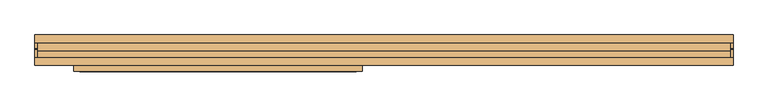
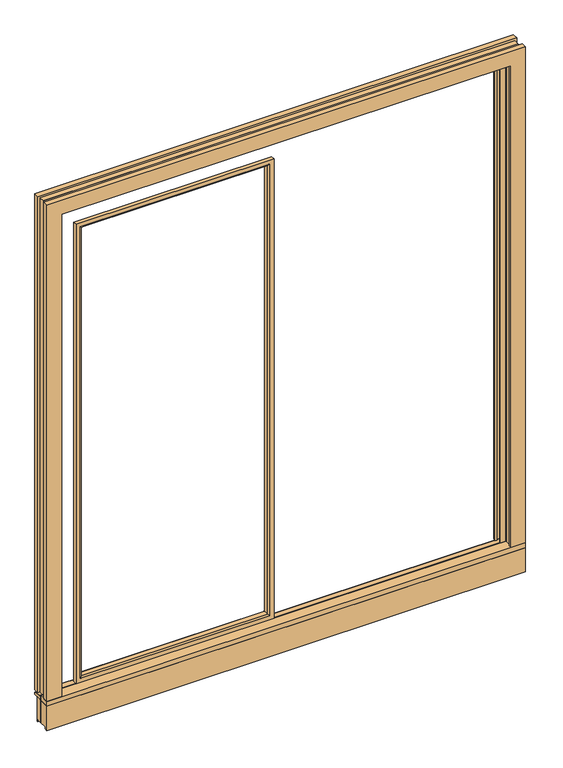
"""IFC4 building model written with IfcOpenShell, lengths in millimetres: door geometry, Doors_GEALAN_S9000_Double-Vent-Door : Doors_GEALAN_S9000_Double-Vent-Door."""

from ifc_helpers import new_model, si_unit, point, frame, frame_2d, origin, origin_with_axes, place, context, project, spatial, polyline, circle_curve, ellipse_curve, trimmed, segment, composite_curve, outline, extrude, faceted_brep, source, transform, mapped, element, save
from ifc_brep_helpers import plane_surface, cylinder_surface, advanced_brep


def door_fb300161(model_context):
    return source(origin(), model_context, "Body", "SolidModel", [
        advanced_brep(
        [(-821.8959832, -45.0529143, 1971.8959829), (-827.6915381, -49.5, 1977.6915379), (-827.6915381, -49.5, 84.3084616), (-821.8959832, -45.0529143, 90.1040166), (-818.0012172, -30.5174497, 1968.0012169), (-818.0012172, -30.5174497, 93.9987826), (-818.0012172, -29.0, 1968.0012169), (-818.0012172, -29.0, 93.9987826), (-831.1432253, -34.0, 1981.143225), (-829.8034793, -29.0, 1979.803479), (-829.8034793, -29.0, 82.1965205), (-831.1432253, -34.0, 80.8567745), (-844.0, -34.0, 1993.9999998), (-844.0, -34.0, 67.9999998), (-844.0, -49.5, 67.9999998), (-844.0, -49.5, 1993.9999998), (-75.3084619, -49.5, 84.3084616), (-81.1040168, -45.0529143, 90.1040166), (-84.9987828, -30.5174497, 93.9987826), (-84.9987828, -29.0, 93.9987826), (-73.1965207, -29.0, 82.1965205), (-71.8567747, -34.0, 80.8567745), (-59.0, -34.0, 67.9999998), (-59.0, -49.5, 67.9999998), (-75.3084619, -49.5, 1977.6915379), (-81.1040168, -45.0529143, 1971.8959829), (-84.9987828, -30.5174497, 1968.0012169), (-84.9987828, -29.0, 1968.0012169), (-73.1965207, -29.0, 1979.803479), (-71.8567747, -34.0, 1981.143225), (-59.0, -34.0, 1993.9999998), (-59.0, -49.5, 1993.9999998)],
        [
            (0, 1, ellipse_curve(frame((-827.6915381, -43.5, 1977.6915379), z_axis=(-0.707106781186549, 0.0, -0.7071067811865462), x_axis=(-0.7071067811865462, 0.0, 0.7071067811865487)), 8.4852814, 6.0)),
            (1, 2),
            (2, 3, ellipse_curve(frame((-827.6915381, -43.5, 84.3084616), z_axis=(-0.7071067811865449, 0.0, 0.70710678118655), x_axis=(0.7071067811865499, 0.0, 0.707106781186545)), 8.4852814, 6.0)),
            (3, 0),
            (4, 0),
            (3, 5),
            (5, 4),
            (6, 4),
            (5, 7),
            (7, 6),
            (8, 9),
            (9, 10),
            (10, 11),
            (11, 8),
            (12, 13),
            (13, 14),
            (14, 15),
            (15, 12),
            (2, 16),
            (16, 17, ellipse_curve(frame((-75.3084619, -43.5, 84.3084616), z_axis=(-0.7071067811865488, 0.0, -0.7071067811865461), x_axis=(-0.7071067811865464, 0.0, 0.7071067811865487)), 8.4852814, 6.0)),
            (17, 3),
            (17, 18),
            (18, 5),
            (18, 19),
            (19, 7),
            (10, 20),
            (20, 21),
            (21, 11),
            (13, 22),
            (22, 23),
            (23, 14),
            (16, 24),
            (24, 25, ellipse_curve(frame((-75.3084619, -43.5, 1977.6915379), z_axis=(0.7071067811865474, 0.0, -0.7071067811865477), x_axis=(-0.7071067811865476, 0.0, -0.7071067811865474)), 8.4852814, 6.0)),
            (25, 17),
            (25, 26),
            (26, 18),
            (26, 27),
            (27, 19),
            (20, 28),
            (28, 29),
            (29, 21),
            (22, 30),
            (30, 31),
            (31, 23),
            (24, 1),
            (0, 25),
            (4, 26),
            (6, 27),
            (9, 28),
            (8, 29),
            (12, 30),
            (15, 31),
        ],
        [
            cylinder_surface(frame((-827.6915381, -43.5, 2049.9999998), z_axis=(0.0, 0.0, 1.0), x_axis=(0.9659258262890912, -0.2588190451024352, 0.0)), 6.0),
            plane_surface(frame((-821.8959832, -45.0529143, 1971.8959829), z_axis=(0.9659258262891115, -0.25881904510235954, 0.0), x_axis=(0.0, 0.0, -1.0))),
            plane_surface(frame((-818.0012172, -30.5174497, 1968.0012169), z_axis=(1.0, 0.0, 0.0), x_axis=(0.0, 0.0, -1.0))),
            plane_surface(frame((-829.8034793, -29.0, 1979.803479), z_axis=(-0.9659258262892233, 0.2588190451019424, 0.0), x_axis=(0.0, 0.0, -1.0))),
            plane_surface(frame((-844.0, -48.5, 1993.9999998), z_axis=(-1.0, 0.0, 0.0), x_axis=(0.0, 0.0, -1.0))),
            cylinder_surface(frame((-900.0, -43.5, 84.3084616), z_axis=(-1.0, 0.0, 0.0), x_axis=(0.0, -0.2588190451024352, 0.9659258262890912)), 6.0),
            plane_surface(frame((-821.8959832, -45.0529143, 90.1040166), z_axis=(0.0, -0.25881904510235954, 0.9659258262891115), x_axis=(1.0, 0.0, 0.0))),
            plane_surface(frame((-818.0012172, -30.5174497, 93.9987826), z_axis=(0.0, 0.0, 1.0), x_axis=(1.0, 0.0, 0.0))),
            plane_surface(frame((-829.8034793, -29.0, 82.1965205), z_axis=(0.0, 0.2588190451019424, -0.9659258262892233), x_axis=(1.0, 0.0, 0.0))),
            plane_surface(frame((-844.0, -48.5, 67.9999998), z_axis=(0.0, 0.0, -1.0), x_axis=(1.0, 0.0, 0.0))),
            cylinder_surface(frame((-75.3084619, -43.5, 11.9999998), z_axis=(0.0, 0.0, -1.0), x_axis=(-0.9659258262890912, -0.2588190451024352, 0.0)), 6.0),
            plane_surface(frame((-81.1040168, -45.0529143, 90.1040166), z_axis=(-0.9659258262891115, -0.25881904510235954, 0.0), x_axis=(0.0, 0.0, 1.0))),
            plane_surface(frame((-84.9987828, -30.5174497, 93.9987826), z_axis=(-1.0, 0.0, 0.0), x_axis=(0.0, 0.0, 1.0))),
            plane_surface(frame((-73.1965207, -29.0, 82.1965205), z_axis=(0.9659258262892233, 0.2588190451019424, 0.0), x_axis=(0.0, 0.0, 1.0))),
            plane_surface(frame((-59.0, -48.5, 67.9999998), z_axis=(1.0, 0.0, 0.0), x_axis=(0.0, 0.0, 1.0))),
            cylinder_surface(frame((-3.0, -43.5, 1977.6915379), z_axis=(1.0, 0.0, 0.0), x_axis=(0.0, -0.2588190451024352, -0.9659258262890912)), 6.0),
            plane_surface(frame((-81.1040168, -45.0529143, 1971.8959829), z_axis=(0.0, -0.25881904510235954, -0.9659258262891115), x_axis=(-1.0, 0.0, 0.0))),
            plane_surface(frame((-84.9987828, -30.5174497, 1968.0012169), z_axis=(0.0, 0.0, -1.0), x_axis=(-1.0, 0.0, 0.0))),
            plane_surface(frame((-84.9987828, -29.0, 1968.0012169), z_axis=(0.0, 1.0, 0.0), x_axis=(-1.0, 0.0, 0.0))),
            plane_surface(frame((-73.1965207, -29.0, 1979.803479), z_axis=(0.0, 0.2588190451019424, 0.9659258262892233), x_axis=(-1.0, 0.0, 0.0))),
            plane_surface(frame((-71.8567747, -34.0, 1981.143225), z_axis=(0.0, 1.0, 0.0), x_axis=(-1.0, 0.0, 0.0))),
            plane_surface(frame((-59.0, -48.5, 1993.9999998), z_axis=(0.0, 0.0, 1.0), x_axis=(-1.0, 0.0, 0.0))),
            plane_surface(frame((-59.0, -49.5, 1993.9999998), z_axis=(0.0, -1.0, 0.0), x_axis=(-1.0, 0.0, 0.0))),
        ],
        [
            (0, [[1, 2, 3, 4]]),
            (1, [[5, -4, 6, 7]]),
            (2, [[8, -7, 9, 10]]),
            (3, [[11, 12, 13, 14]]),
            (4, [[15, 16, 17, 18]]),
            (5, [[-3, 19, 20, 21]]),
            (6, [[-6, -21, 22, 23]]),
            (7, [[-9, -23, 24, 25]]),
            (8, [[-13, 26, 27, 28]]),
            (9, [[-16, 29, 30, 31]]),
            (10, [[-20, 32, 33, 34]]),
            (11, [[-22, -34, 35, 36]]),
            (12, [[-24, -36, 37, 38]]),
            (13, [[-27, 39, 40, 41]]),
            (14, [[-30, 42, 43, 44]]),
            (15, [[-33, 45, -1, 46]]),
            (16, [[-35, -46, -5, 47]]),
            (17, [[-37, -47, -8, 48]]),
            (18, [[49, -39, -26, -12], [-25, -38, -48, -10]]),
            (19, [[-40, -49, -11, 50]]),
            (20, [[51, -42, -29, -15], [-28, -41, -50, -14]]),
            (21, [[-43, -51, -18, 52]]),
            (22, [[-31, -44, -52, -17], [-45, -32, -19, -2]]),
        ],
    ),
        extrude(outline(polyline([(9.5, 0.0), (9.5, -94.0), (-20.0, -94.0), (-20.0, -102.0), (-32.5, -102.0), (-32.5, 0.0), (9.5, 0.0)])), frame((-950.0, 0.0, 0.0), z_axis=(1.0, 0.0, 0.0), x_axis=(0.0, 1.0, 0.0)), (0.0, 0.0, 1.0), 1900.0),
        extrude(outline(polyline([(33.5, 0.0), (33.5, -102.0), (29.0, -102.0), (29.0, -94.0), (9.5, -94.0), (9.5, 0.0), (33.5, 0.0)])), frame((-950.0, 0.0, 0.0), z_axis=(1.0, 0.0, 0.0), x_axis=(0.0, 1.0, 0.0)), (0.0, 0.0, 1.0), 1900.0),
        extrude(outline(polyline([(950.0, 9.5), (950.0, -32.5), (-950.0, -32.5), (-950.0, 9.5), (950.0, 9.5)])), origin_with_axes(), (0.0, 0.0, 1.0), 20.0),
        extrude(outline(composite_curve([segment(trimmed(circle_curve(frame_2d((44.0, 5.9)), 6.0), [point((44.7312161, 11.8552769))], [point((50.0, 5.9))], False, "CARTESIAN"), True, "CONTINUOUS"), segment(polyline([(50.0, 5.9), (50.0, 0.0), (9.5, 0.0), (9.5, 20.0), (12.2, 20.0), (12.2, 15.849608), (44.7312161, 11.8552769)]), True, "CONTINUOUS")], self_intersect=False)), frame((-950.0, 0.0, 0.0), z_axis=(1.0, 0.0, 0.0), x_axis=(0.0, 1.0, 0.0)), (0.0, 0.0, 1.0), 1900.0),
        advanced_brep(
        [(866.0, 36.02771, 2016.0), (868.5522708, 45.5529143, 2018.5522708), (868.5522708, 45.5529143, 20.0), (866.0, 36.02771, 20.0), (866.0, 35.0, 2016.0), (866.0, 35.0, 20.0), (896.1, 20.9886714, 2046.1), (899.0781998, 35.0, 2049.0781998), (899.0781998, 35.0, 20.0), (896.1, 20.9886714, 20.0), (896.1, 7.5, 2046.1), (896.1, 7.5, 20.0), (942.0, 29.0, 2092.0), (942.0, 7.5, 2092.0), (942.0, 7.5, 20.0), (942.0, 29.0, 20.0), (950.0, 50.0, 2100.0), (950.0, 29.0, 2100.0), (950.0, 29.0, 20.0), (950.0, 50.0, 20.0), (874.3478258, 50.0, 2024.3478257), (874.3478258, 50.0, 20.0), (-866.0, 36.02771, 20.0), (-868.5522708, 45.5529143, 20.0), (-868.5522708, 45.5529143, 2018.5522708), (-866.0, 36.02771, 2016.0), (-866.0, 35.0, 20.0), (-866.0, 35.0, 2016.0), (-896.1, 20.9886714, 20.0), (-899.0781998, 35.0, 20.0), (-899.0781998, 35.0, 2049.0781998), (-896.1, 20.9886714, 2046.1), (-896.1, 7.5, 20.0), (-896.1, 7.5, 2046.1), (-942.0, 29.0, 20.0), (-942.0, 7.5, 20.0), (-942.0, 7.5, 2092.0), (-942.0, 29.0, 2092.0), (-950.0, 50.0, 20.0), (-950.0, 29.0, 20.0), (-950.0, 29.0, 2100.0), (-950.0, 50.0, 2100.0), (-874.3478258, 50.0, 20.0), (-874.3478258, 50.0, 2024.3478257)],
        [
            (0, 1),
            (1, 2),
            (2, 3),
            (3, 0),
            (4, 0),
            (3, 5),
            (5, 4),
            (6, 7),
            (7, 8),
            (8, 9),
            (9, 6),
            (10, 6),
            (9, 11),
            (11, 10),
            (12, 13),
            (13, 14),
            (14, 15),
            (15, 12),
            (16, 17),
            (17, 18),
            (18, 19),
            (19, 16),
            (1, 20, ellipse_curve(frame((874.3478258, 44.0, 2024.3478257), z_axis=(0.7071067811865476, 0.0, -0.7071067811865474), x_axis=(0.7071067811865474, 0.0, 0.7071067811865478)), 8.4852814, 6.0)),
            (20, 21),
            (21, 2, circle_curve(frame((874.3478258, 44.0, 20.0), z_axis=(0.0, 0.0, 1.0), x_axis=(0.0, 1.0, 0.0)), 6.0)),
            (22, 23),
            (23, 24),
            (24, 25),
            (25, 22),
            (26, 22),
            (25, 27),
            (27, 26),
            (28, 29),
            (29, 30),
            (30, 31),
            (31, 28),
            (32, 28),
            (31, 33),
            (33, 32),
            (34, 35),
            (35, 36),
            (36, 37),
            (37, 34),
            (38, 39),
            (39, 40),
            (40, 41),
            (41, 38),
            (23, 42, circle_curve(frame((-874.3478258, 44.0, 20.0), z_axis=(0.0, 0.0, 1.0), x_axis=(0.0, 1.0, 0.0)), 6.0)),
            (42, 43),
            (43, 24, ellipse_curve(frame((-874.3478258, 44.0, 2024.3478257), z_axis=(-0.707106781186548, 0.0, -0.707106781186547), x_axis=(0.707106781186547, 0.0, -0.707106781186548)), 8.4852814, 6.0)),
            (24, 1),
            (0, 25),
            (4, 27),
            (30, 7),
            (6, 31),
            (10, 33),
            (36, 13),
            (12, 37),
            (40, 17),
            (16, 41),
            (43, 20),
            (26, 29),
            (32, 35),
            (34, 39),
            (38, 42),
            (21, 19),
            (18, 15),
            (14, 11),
            (8, 5),
        ],
        [
            plane_surface(frame((868.5522708, 45.5529143, 2018.5522708), z_axis=(-0.9659258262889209, 0.25881904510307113, 0.0), x_axis=(0.0, 0.0, -1.0))),
            plane_surface(frame((866.0, 36.02771, 2016.0), z_axis=(-1.0, 0.0, 0.0), x_axis=(0.0, 0.0, -1.0))),
            plane_surface(frame((899.0781998, 35.0, 2049.0781998), z_axis=(-0.9781476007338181, 0.20791169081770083, 0.0), x_axis=(0.0, 0.0, -1.0))),
            plane_surface(frame((896.1, 20.9886714, 2046.1), z_axis=(-1.0, 0.0, 0.0), x_axis=(0.0, 0.0, -1.0))),
            plane_surface(frame((942.0, 7.5, 2092.0), z_axis=(1.0, 0.0, 0.0), x_axis=(0.0, 0.0, -1.0))),
            plane_surface(frame((950.0, 29.0, 2100.0), z_axis=(1.0, 0.0, 0.0), x_axis=(0.0, 0.0, -1.0))),
            cylinder_surface(frame((874.3478258, 44.0, 2100.0), z_axis=(0.0, 0.0, 1.0), x_axis=(0.0, 1.0, 0.0)), 6.0),
            plane_surface(frame((-868.5522708, 45.5529143, 20.0), z_axis=(0.9659258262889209, 0.25881904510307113, 0.0), x_axis=(0.0, 0.0, 1.0))),
            plane_surface(frame((-866.0, 36.02771, 20.0), z_axis=(1.0, 0.0, 0.0), x_axis=(0.0, 0.0, 1.0))),
            plane_surface(frame((-899.0781998, 35.0, 20.0), z_axis=(0.9781476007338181, 0.20791169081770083, 0.0), x_axis=(0.0, 0.0, 1.0))),
            plane_surface(frame((-896.1, 20.9886714, 20.0), z_axis=(1.0, 0.0, 0.0), x_axis=(0.0, 0.0, 1.0))),
            plane_surface(frame((-942.0, 7.5, 20.0), z_axis=(-1.0, 0.0, 0.0), x_axis=(0.0, 0.0, 1.0))),
            plane_surface(frame((-950.0, 29.0, 20.0), z_axis=(-1.0, 0.0, 0.0), x_axis=(0.0, 0.0, 1.0))),
            cylinder_surface(frame((-874.3478258, 44.0, 20.0), z_axis=(0.0, 0.0, -1.0), x_axis=(0.0, 1.0, 0.0)), 6.0),
            plane_surface(frame((-868.5522708, 45.5529143, 2018.5522708), z_axis=(0.0, 0.25881904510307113, -0.9659258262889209), x_axis=(1.0, 0.0, 0.0))),
            plane_surface(frame((-866.0, 36.02771, 2016.0), z_axis=(0.0, 0.0, -1.0), x_axis=(1.0, 0.0, 0.0))),
            plane_surface(frame((-899.0781998, 35.0, 2049.0781998), z_axis=(0.0, 0.20791169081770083, -0.9781476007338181), x_axis=(1.0, 0.0, 0.0))),
            plane_surface(frame((-896.1, 20.9886714, 2046.1), z_axis=(0.0, 0.0, -1.0), x_axis=(1.0, 0.0, 0.0))),
            plane_surface(frame((-942.0, 7.5, 2092.0), z_axis=(0.0, 0.0, 1.0), x_axis=(1.0, 0.0, 0.0))),
            plane_surface(frame((-950.0, 29.0, 2100.0), z_axis=(0.0, 0.0, 1.0), x_axis=(1.0, 0.0, 0.0))),
            cylinder_surface(frame((-950.0, 44.0, 2024.3478257), z_axis=(-1.0, 0.0, 0.0), x_axis=(0.0, 1.0, 0.0)), 6.0),
            plane_surface(frame((-950.0, -32.5, 20.0), z_axis=(0.0, 0.0, -1.0), x_axis=(0.0, -1.0, 0.0))),
            plane_surface(frame((950.0, -32.5, 20.0), z_axis=(0.0, 0.0, -1.0), x_axis=(0.0, -1.0, 0.0))),
            plane_surface(frame((-867.0, 35.0, 20.0), z_axis=(0.0, -1.0, 0.0), x_axis=(0.0, 0.0, 1.0))),
            plane_surface(frame((-896.1, 7.5, 20.0), z_axis=(0.0, -1.0, 0.0), x_axis=(0.0, 0.0, 1.0))),
            plane_surface(frame((-942.0, 29.0, 20.0), z_axis=(0.0, -1.0, 0.0), x_axis=(0.0, 0.0, 1.0))),
            plane_surface(frame((-950.0, 50.0, 20.0), z_axis=(0.0, 1.0, 0.0), x_axis=(0.0, 0.0, 1.0))),
        ],
        [
            (0, [[1, 2, 3, 4]]),
            (1, [[5, -4, 6, 7]]),
            (2, [[8, 9, 10, 11]]),
            (3, [[12, -11, 13, 14]]),
            (4, [[15, 16, 17, 18]]),
            (5, [[19, 20, 21, 22]]),
            (6, [[23, 24, 25, -2]]),
            (7, [[26, 27, 28, 29]]),
            (8, [[30, -29, 31, 32]]),
            (9, [[33, 34, 35, 36]]),
            (10, [[37, -36, 38, 39]]),
            (11, [[40, 41, 42, 43]]),
            (12, [[44, 45, 46, 47]]),
            (13, [[48, 49, 50, -27]]),
            (14, [[-28, 51, -1, 52]]),
            (15, [[-31, -52, -5, 53]]),
            (16, [[-35, 54, -8, 55]]),
            (17, [[-38, -55, -12, 56]]),
            (18, [[-42, 57, -15, 58]]),
            (19, [[-46, 59, -19, 60]]),
            (20, [[-50, 61, -23, -51]]),
            (21, [[-26, -30, 62, -33, -37, 63, -40, 64, -44, 65, -48]]),
            (22, [[-25, 66, -21, 67, -17, 68, -13, -10, 69, -6, -3]]),
            (23, [[-32, -53, -7, -69, -9, -54, -34, -62]]),
            (24, [[-63, -39, -56, -14, -68, -16, -57, -41]]),
            (25, [[-64, -43, -58, -18, -67, -20, -59, -45]]),
            (26, [[-65, -47, -60, -22, -66, -24, -61, -49]]),
        ],
    ),
        faceted_brep([(892.0, -32.5, 2042.0), (892.0, -21.25, 2042.0), (892.0, -21.25, 20.0), (892.0, -32.5, 20.0), (950.0, -32.5, 2100.0), (950.0, -32.5, 20.0), (950.0, -11.5, 20.0), (950.0, -11.5, 2100.0), (942.0, 7.5, 2092.0), (942.0, -11.5, 2092.0), (942.0, -11.5, 20.0), (942.0, 7.5, 20.0), (896.1, -21.25, 2046.1), (896.1, 7.5, 2046.1), (896.1, 7.5, 20.0), (896.1, -21.25, 20.0), (-892.0, -32.5, 20.0), (-892.0, -21.25, 20.0), (-892.0, -21.25, 2042.0), (-892.0, -32.5, 2042.0), (-950.0, -32.5, 20.0), (-950.0, -32.5, 2100.0), (-950.0, -11.5, 2100.0), (-950.0, -11.5, 20.0), (-942.0, 7.5, 20.0), (-942.0, -11.5, 20.0), (-942.0, -11.5, 2092.0), (-942.0, 7.5, 2092.0), (-896.1, -21.25, 20.0), (-896.1, 7.5, 20.0), (-896.1, 7.5, 2046.1), (-896.1, -21.25, 2046.1)], [[[0, 1, 2, 3]], [[4, 5, 6, 7]], [[8, 9, 10, 11]], [[12, 13, 14, 15]], [[16, 17, 18, 19]], [[20, 21, 22, 23]], [[24, 25, 26, 27]], [[28, 29, 30, 31]], [[19, 18, 1, 0]], [[22, 21, 4, 7]], [[27, 26, 9, 8]], [[31, 30, 13, 12]], [[17, 16, 20, 23, 25, 24, 29, 28]], [[2, 15, 14, 11, 10, 6, 5, 3]], [[20, 16, 19, 0, 3, 5, 4, 21]], [[25, 23, 22, 7, 6, 10, 9, 26]], [[29, 24, 27, 8, 11, 14, 13, 30]], [[17, 28, 31, 12, 15, 2, 1, 18]]]),
        extrude(outline(polyline([(20.0, -896.1), (20.0, -875.0), (2025.0, -875.0), (2025.0, 875.0), (20.0, 875.0), (20.0, 896.1), (2046.1, 896.1), (2046.1, -896.1), (20.0, -896.1)])), frame((0.0, 10.0, 0.0), z_axis=(0.0, 1.0, 0.0), x_axis=(0.0, 0.0, 1.0)), (0.0, 0.0, 1.0), 5.3),
        extrude(outline(polyline([(20.0, -873.8), (20.0, -866.0), (2016.0, -866.0), (2016.0, 866.0), (20.0, 866.0), (20.0, 873.8), (2023.8, 873.8), (2023.8, -873.8), (20.0, -873.8)])), frame((0.0, 31.5, 0.0), z_axis=(0.0, 1.0, 0.0), x_axis=(0.0, 0.0, 1.0)), (0.0, 0.0, 1.0), 3.5),
    ])


if __name__ == "__main__":
    model = new_model("IFC4")
    model_context = context("Model", 3, world=origin())
    ifc_project = project(units=[si_unit("LENGTHUNIT", "METRE", prefix="MILLI")], contexts=[model_context])
    site = spatial("IfcSite", under=ifc_project)
    building = spatial("IfcBuilding", under=site)
    placement = place(None, origin())
    door_shape = door_fb300161(model_context)
    element("IfcDoor", 1, ObjectType="Doors_GEALAN_S9000_Double-Vent-Door : Doors_GEALAN_S9000_Double-Vent-Door", at=placement, inside=building, context=model_context, shape_type="MappedRepresentation", body=[
        mapped(door_shape, transform((0.0, 0.0, 0.0), x_axis=(1.0, 0.0, 0.0), y_axis=(0.0, 1.0, 0.0), z_axis=(0.0, 0.0, 1.0))),
    ])
    save(model, "model.ifc")
